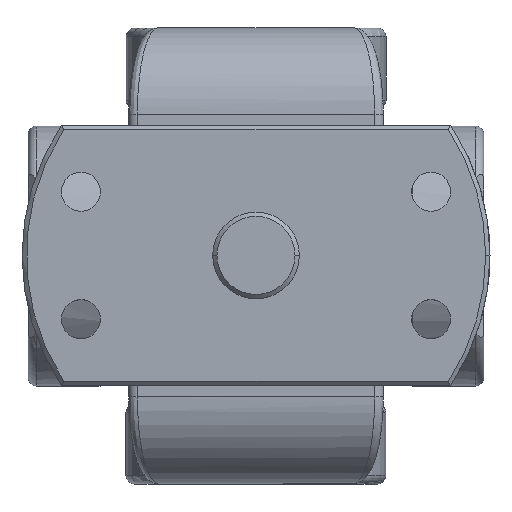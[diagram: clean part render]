
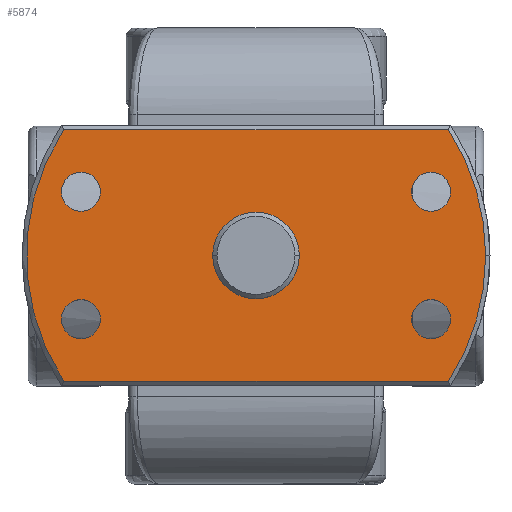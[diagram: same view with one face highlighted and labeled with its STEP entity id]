
A CAD part, top view. The second image highlights one B-rep face of the part: STEP entity #5874.
In plain terms, the highlighted planar face has unit normal (0, 0, 1).
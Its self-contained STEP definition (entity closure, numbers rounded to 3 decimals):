
#8 = FACE_BOUND ( 'NONE', #2693, .T. ) ;
#322 = CIRCLE ( 'NONE', #7458, 4. ) ;
#403 = VERTEX_POINT ( 'NONE', #9261 ) ;
#663 = CIRCLE ( 'NONE', #3811, 26.5 ) ;
#680 = EDGE_CURVE ( 'NONE', #4275, #403, #7483, .T. ) ;
#853 = DIRECTION ( 'NONE',  ( 1., 0., 0. ) ) ;
#888 = CIRCLE ( 'NONE', #8670, 4. ) ;
#981 = CARTESIAN_POINT ( 'NONE',  ( -3.85, -40.8, 84. ) ) ;
#1100 = EDGE_CURVE ( 'NONE', #10430, #12795, #10496, .T. ) ;
#1111 = ORIENTED_EDGE ( 'NONE', *, *, #10723, .T. ) ;
#1272 = CARTESIAN_POINT ( 'NONE',  ( -3.847, -33.653, 84. ) ) ;
#1402 = EDGE_LOOP ( 'NONE', ( #1111, #3815 ) ) ;
#1409 = CARTESIAN_POINT ( 'NONE',  ( -44.253, -33.653, 84. ) ) ;
#1411 = EDGE_LOOP ( 'NONE', ( #12514, #8110 ) ) ;
#1737 = ORIENTED_EDGE ( 'NONE', *, *, #3271, .T. ) ;
#1788 = EDGE_CURVE ( 'NONE', #1919, #8194, #4628, .T. ) ;
#1839 = VERTEX_POINT ( 'NONE', #8050 ) ;
#1886 = DIRECTION ( 'NONE',  ( 0., 0., 1. ) ) ;
#1919 = VERTEX_POINT ( 'NONE', #1931 ) ;
#1931 = CARTESIAN_POINT ( 'NONE',  ( -3.847, -18.947, 84. ) ) ;
#1975 = VERTEX_POINT ( 'NONE', #2501 ) ;
#2037 = EDGE_CURVE ( 'NONE', #7558, #11859, #8406, .T. ) ;
#2048 = PLANE ( 'NONE',  #11856 ) ;
#2232 = CARTESIAN_POINT ( 'NONE',  ( -8.347, -18.947, 84. ) ) ;
#2257 = DIRECTION ( 'NONE',  ( 0., 0., -1. ) ) ;
#2304 = AXIS2_PLACEMENT_3D ( 'NONE', #4497, #3500, #5615 ) ;
#2340 = CARTESIAN_POINT ( 'NONE',  ( -46.503, -18.947, 84. ) ) ;
#2501 = CARTESIAN_POINT ( 'NONE',  ( -4.119, -40.8, 84. ) ) ;
#2684 = CARTESIAN_POINT ( 'NONE',  ( -48.753, -18.947, 84. ) ) ;
#2693 = EDGE_LOOP ( 'NONE', ( #11277, #12625 ) ) ;
#2712 = CARTESIAN_POINT ( 'NONE',  ( -26.3, -26.3, 84. ) ) ;
#2844 = FACE_BOUND ( 'NONE', #5188, .T. ) ;
#2852 = CARTESIAN_POINT ( 'NONE',  ( 0.2, -26.3, 84. ) ) ;
#2977 = VERTEX_POINT ( 'NONE', #8305 ) ;
#3005 = DIRECTION ( 'NONE',  ( -1., 0., 0. ) ) ;
#3212 = CARTESIAN_POINT ( 'NONE',  ( -48.481, -11.8, 84. ) ) ;
#3271 = EDGE_CURVE ( 'NONE', #1975, #4275, #663, .T. ) ;
#3370 = DIRECTION ( 'NONE',  ( 1., 0., 0. ) ) ;
#3414 = DIRECTION ( 'NONE',  ( 1., 0., 0. ) ) ;
#3490 = DIRECTION ( 'NONE',  ( 0., 0., -1. ) ) ;
#3500 = DIRECTION ( 'NONE',  ( 0., 0., 1. ) ) ;
#3573 = EDGE_CURVE ( 'NONE', #403, #7558, #8869, .T. ) ;
#3606 = CARTESIAN_POINT ( 'NONE',  ( -48.75, -11.8, 84. ) ) ;
#3718 = DIRECTION ( 'NONE',  ( 0., 0., -1. ) ) ;
#3754 = ORIENTED_EDGE ( 'NONE', *, *, #7354, .T. ) ;
#3807 = DIRECTION ( 'NONE',  ( 0., 0., -1. ) ) ;
#3811 = AXIS2_PLACEMENT_3D ( 'NONE', #13041, #6050, #4135 ) ;
#3815 = ORIENTED_EDGE ( 'NONE', *, *, #1100, .T. ) ;
#3876 = VERTEX_POINT ( 'NONE', #1409 ) ;
#3886 = CARTESIAN_POINT ( 'NONE',  ( -6.097, -33.653, 84. ) ) ;
#4135 = DIRECTION ( 'NONE',  ( -1., 0., 0. ) ) ;
#4173 = CIRCLE ( 'NONE', #4610, 2.25 ) ;
#4275 = VERTEX_POINT ( 'NONE', #2852 ) ;
#4384 = EDGE_CURVE ( 'NONE', #1839, #3876, #11638, .T. ) ;
#4459 = AXIS2_PLACEMENT_3D ( 'NONE', #6392, #3490, #12455 ) ;
#4497 = CARTESIAN_POINT ( 'NONE',  ( -26.3, -26.3, 84. ) ) ;
#4560 = CARTESIAN_POINT ( 'NONE',  ( -48.481, -40.8, 84. ) ) ;
#4610 = AXIS2_PLACEMENT_3D ( 'NONE', #8481, #9546, #3414 ) ;
#4628 = CIRCLE ( 'NONE', #8831, 2.25 ) ;
#4646 = DIRECTION ( 'NONE',  ( 1., 0., 0. ) ) ;
#4693 = DIRECTION ( 'NONE',  ( -1., 0., 0. ) ) ;
#4759 = DIRECTION ( 'NONE',  ( -1., 0., 0. ) ) ;
#4980 = ORIENTED_EDGE ( 'NONE', *, *, #2037, .T. ) ;
#5188 = EDGE_LOOP ( 'NONE', ( #7206, #12857 ) ) ;
#5269 = EDGE_CURVE ( 'NONE', #8194, #1919, #9952, .T. ) ;
#5546 = ORIENTED_EDGE ( 'NONE', *, *, #8384, .F. ) ;
#5609 = ORIENTED_EDGE ( 'NONE', *, *, #10308, .F. ) ;
#5615 = DIRECTION ( 'NONE',  ( -1., 0., 0. ) ) ;
#5781 = CARTESIAN_POINT ( 'NONE',  ( -6.097, -33.653, 84. ) ) ;
#5874 = ADVANCED_FACE ( 'NONE', ( #7057, #5941, #2844, #8, #10951, #11881 ), #2048, .T. ) ;
#5941 = FACE_BOUND ( 'NONE', #12957, .T. ) ;
#6000 = LINE ( 'NONE', #981, #10340 ) ;
#6050 = DIRECTION ( 'NONE',  ( 0., 0., 1. ) ) ;
#6060 = CIRCLE ( 'NONE', #6696, 2.25 ) ;
#6074 = EDGE_LOOP ( 'NONE', ( #11515, #4980, #3754, #1737, #7842 ) ) ;
#6087 = CARTESIAN_POINT ( 'NONE',  ( -30.3, -26.3, 84. ) ) ;
#6242 = DIRECTION ( 'NONE',  ( 0., 0., -1. ) ) ;
#6348 = CARTESIAN_POINT ( 'NONE',  ( -46.503, -33.653, 84. ) ) ;
#6372 = DIRECTION ( 'NONE',  ( 0., 0., -1. ) ) ;
#6392 = CARTESIAN_POINT ( 'NONE',  ( -46.503, -33.653, 84. ) ) ;
#6437 = DIRECTION ( 'NONE',  ( 1., 0., 0. ) ) ;
#6602 = VERTEX_POINT ( 'NONE', #2684 ) ;
#6696 = AXIS2_PLACEMENT_3D ( 'NONE', #5781, #11404, #9732 ) ;
#6781 = AXIS2_PLACEMENT_3D ( 'NONE', #2712, #11809, #8712 ) ;
#6863 = CARTESIAN_POINT ( 'NONE',  ( -41.3, 0., 84. ) ) ;
#7057 = FACE_OUTER_BOUND ( 'NONE', #6074, .T. ) ;
#7206 = ORIENTED_EDGE ( 'NONE', *, *, #9131, .T. ) ;
#7354 = EDGE_CURVE ( 'NONE', #11859, #1975, #6000, .T. ) ;
#7458 = AXIS2_PLACEMENT_3D ( 'NONE', #11617, #8568, #4693 ) ;
#7483 = CIRCLE ( 'NONE', #6781, 26.5 ) ;
#7558 = VERTEX_POINT ( 'NONE', #3212 ) ;
#7719 = VERTEX_POINT ( 'NONE', #12275 ) ;
#7807 = CIRCLE ( 'NONE', #4459, 2.25 ) ;
#7842 = ORIENTED_EDGE ( 'NONE', *, *, #680, .T. ) ;
#8050 = CARTESIAN_POINT ( 'NONE',  ( -48.753, -33.653, 84. ) ) ;
#8110 = ORIENTED_EDGE ( 'NONE', *, *, #5269, .T. ) ;
#8194 = VERTEX_POINT ( 'NONE', #2232 ) ;
#8305 = CARTESIAN_POINT ( 'NONE',  ( -22.3, -26.3, 84. ) ) ;
#8384 = EDGE_CURVE ( 'NONE', #8797, #2977, #888, .T. ) ;
#8406 = CIRCLE ( 'NONE', #2304, 26.5 ) ;
#8481 = CARTESIAN_POINT ( 'NONE',  ( -46.503, -18.947, 84. ) ) ;
#8568 = DIRECTION ( 'NONE',  ( 0., 0., 1. ) ) ;
#8617 = EDGE_CURVE ( 'NONE', #6602, #7719, #8889, .T. ) ;
#8670 = AXIS2_PLACEMENT_3D ( 'NONE', #10993, #1886, #3005 ) ;
#8712 = DIRECTION ( 'NONE',  ( -1., 0., 0. ) ) ;
#8797 = VERTEX_POINT ( 'NONE', #6087 ) ;
#8831 = AXIS2_PLACEMENT_3D ( 'NONE', #12755, #3718, #4646 ) ;
#8869 = LINE ( 'NONE', #3606, #9716 ) ;
#8889 = CIRCLE ( 'NONE', #12267, 2.25 ) ;
#9131 = EDGE_CURVE ( 'NONE', #3876, #1839, #7807, .T. ) ;
#9201 = CARTESIAN_POINT ( 'NONE',  ( -6.097, -18.947, 84. ) ) ;
#9261 = CARTESIAN_POINT ( 'NONE',  ( -4.119, -11.8, 84. ) ) ;
#9324 = AXIS2_PLACEMENT_3D ( 'NONE', #9201, #6242, #11123 ) ;
#9441 = CARTESIAN_POINT ( 'NONE',  ( -8.347, -33.653, 84. ) ) ;
#9546 = DIRECTION ( 'NONE',  ( 0., 0., -1. ) ) ;
#9685 = DIRECTION ( 'NONE',  ( 1., 0., 0. ) ) ;
#9716 = VECTOR ( 'NONE', #9738, 1000. ) ;
#9732 = DIRECTION ( 'NONE',  ( 1., 0., 0. ) ) ;
#9738 = DIRECTION ( 'NONE',  ( -1., 0., 0. ) ) ;
#9952 = CIRCLE ( 'NONE', #9324, 2.25 ) ;
#10308 = EDGE_CURVE ( 'NONE', #2977, #8797, #322, .T. ) ;
#10340 = VECTOR ( 'NONE', #853, 1000. ) ;
#10430 = VERTEX_POINT ( 'NONE', #9441 ) ;
#10496 = CIRCLE ( 'NONE', #10708, 2.25 ) ;
#10708 = AXIS2_PLACEMENT_3D ( 'NONE', #3886, #3807, #9685 ) ;
#10723 = EDGE_CURVE ( 'NONE', #12795, #10430, #6060, .T. ) ;
#10951 = FACE_BOUND ( 'NONE', #1402, .T. ) ;
#10993 = CARTESIAN_POINT ( 'NONE',  ( -26.3, -26.3, 84. ) ) ;
#11123 = DIRECTION ( 'NONE',  ( 1., 0., 0. ) ) ;
#11277 = ORIENTED_EDGE ( 'NONE', *, *, #11289, .T. ) ;
#11289 = EDGE_CURVE ( 'NONE', #7719, #6602, #4173, .T. ) ;
#11404 = DIRECTION ( 'NONE',  ( 0., 0., -1. ) ) ;
#11515 = ORIENTED_EDGE ( 'NONE', *, *, #3573, .T. ) ;
#11617 = CARTESIAN_POINT ( 'NONE',  ( -26.3, -26.3, 84. ) ) ;
#11638 = CIRCLE ( 'NONE', #12260, 2.25 ) ;
#11809 = DIRECTION ( 'NONE',  ( 0., 0., 1. ) ) ;
#11811 = DIRECTION ( 'NONE',  ( 0., 0., 1. ) ) ;
#11856 = AXIS2_PLACEMENT_3D ( 'NONE', #6863, #11811, #4759 ) ;
#11859 = VERTEX_POINT ( 'NONE', #4560 ) ;
#11881 = FACE_BOUND ( 'NONE', #1411, .T. ) ;
#12260 = AXIS2_PLACEMENT_3D ( 'NONE', #6348, #2257, #3370 ) ;
#12267 = AXIS2_PLACEMENT_3D ( 'NONE', #2340, #6372, #6437 ) ;
#12275 = CARTESIAN_POINT ( 'NONE',  ( -44.253, -18.947, 84. ) ) ;
#12455 = DIRECTION ( 'NONE',  ( 1., 0., 0. ) ) ;
#12514 = ORIENTED_EDGE ( 'NONE', *, *, #1788, .T. ) ;
#12625 = ORIENTED_EDGE ( 'NONE', *, *, #8617, .T. ) ;
#12755 = CARTESIAN_POINT ( 'NONE',  ( -6.097, -18.947, 84. ) ) ;
#12795 = VERTEX_POINT ( 'NONE', #1272 ) ;
#12857 = ORIENTED_EDGE ( 'NONE', *, *, #4384, .T. ) ;
#12957 = EDGE_LOOP ( 'NONE', ( #5609, #5546 ) ) ;
#13041 = CARTESIAN_POINT ( 'NONE',  ( -26.3, -26.3, 84. ) ) ;
